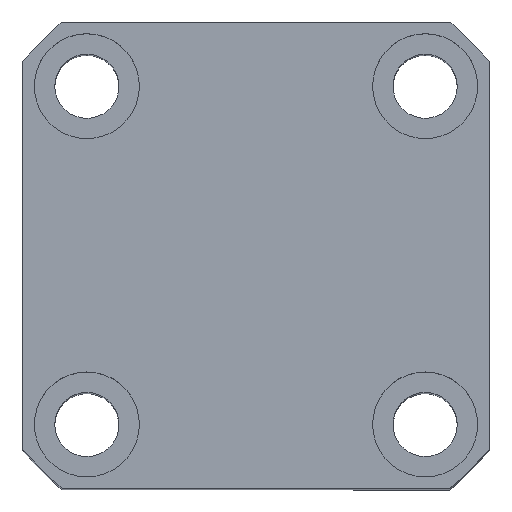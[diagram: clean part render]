
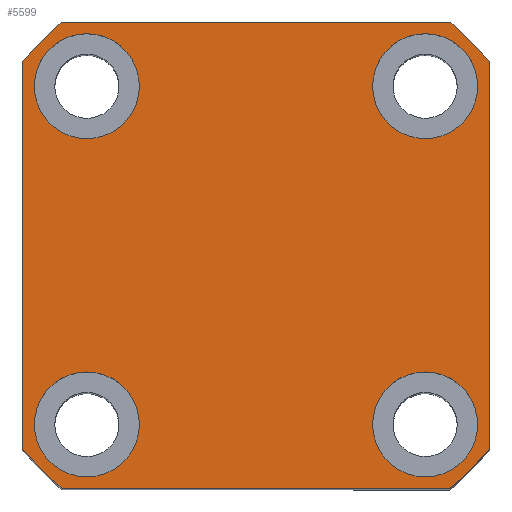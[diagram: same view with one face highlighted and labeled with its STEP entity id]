
A CAD part, top view. The second image highlights one B-rep face of the part: STEP entity #5599.
In plain terms, the highlighted planar face has unit normal (0, 0, 1).
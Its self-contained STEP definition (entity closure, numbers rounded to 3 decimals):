
#57 = DIRECTION ( 'NONE',  ( 0., 0., 1. ) ) ;
#140 = VERTEX_POINT ( 'NONE', #6540 ) ;
#310 = CARTESIAN_POINT ( 'NONE',  ( -33.226, 40., 70. ) ) ;
#358 = CARTESIAN_POINT ( 'NONE',  ( 0., 0., 70. ) ) ;
#406 = EDGE_CURVE ( 'NONE', #1213, #6819, #6655, .T. ) ;
#444 = ORIENTED_EDGE ( 'NONE', *, *, #11125, .T. ) ;
#515 = EDGE_CURVE ( 'NONE', #6120, #532, #2562, .T. ) ;
#532 = VERTEX_POINT ( 'NONE', #8366 ) ;
#1038 = ORIENTED_EDGE ( 'NONE', *, *, #9103, .T. ) ;
#1051 = CARTESIAN_POINT ( 'NONE',  ( 38., -29., 70. ) ) ;
#1101 = CIRCLE ( 'NONE', #6716, 52. ) ;
#1142 = VERTEX_POINT ( 'NONE', #3096 ) ;
#1148 = CARTESIAN_POINT ( 'NONE',  ( -29., 29., 70. ) ) ;
#1213 = VERTEX_POINT ( 'NONE', #13213 ) ;
#1246 = DIRECTION ( 'NONE',  ( 0., 0., 1. ) ) ;
#1385 = AXIS2_PLACEMENT_3D ( 'NONE', #9078, #1538, #2501 ) ;
#1415 = VERTEX_POINT ( 'NONE', #9473 ) ;
#1446 = EDGE_CURVE ( 'NONE', #7892, #1142, #2049, .T. ) ;
#1471 = DIRECTION ( 'NONE',  ( 1., 0., 0. ) ) ;
#1496 = DIRECTION ( 'NONE',  ( 1., 0., 0. ) ) ;
#1519 = VERTEX_POINT ( 'NONE', #3333 ) ;
#1538 = DIRECTION ( 'NONE',  ( 0., 0., 1. ) ) ;
#1629 = CIRCLE ( 'NONE', #12748, 52. ) ;
#1635 = DIRECTION ( 'NONE',  ( 0., 0., 1. ) ) ;
#1673 = CARTESIAN_POINT ( 'NONE',  ( 0., 0., 70. ) ) ;
#1755 = ORIENTED_EDGE ( 'NONE', *, *, #515, .T. ) ;
#1817 = EDGE_LOOP ( 'NONE', ( #1038, #1755, #14129, #10009, #8756, #5972, #444, #9604 ) ) ;
#1912 = CARTESIAN_POINT ( 'NONE',  ( -38., 29., 70. ) ) ;
#2049 = CIRCLE ( 'NONE', #5244, 9. ) ;
#2159 = CIRCLE ( 'NONE', #6251, 9. ) ;
#2186 = DIRECTION ( 'NONE',  ( 0., 0., 1. ) ) ;
#2227 = CARTESIAN_POINT ( 'NONE',  ( -40., 33.226, 70. ) ) ;
#2484 = PLANE ( 'NONE',  #12617 ) ;
#2501 = DIRECTION ( 'NONE',  ( 1., 0., 0. ) ) ;
#2562 = LINE ( 'NONE', #10366, #12643 ) ;
#2639 = DIRECTION ( 'NONE',  ( 1., 0., 0. ) ) ;
#2737 = CARTESIAN_POINT ( 'NONE',  ( 0., 0., 70. ) ) ;
#2788 = DIRECTION ( 'NONE',  ( 1., 0., 0. ) ) ;
#2901 = DIRECTION ( 'NONE',  ( 1., 0., 0. ) ) ;
#3096 = CARTESIAN_POINT ( 'NONE',  ( -38., -29., 70. ) ) ;
#3150 = CARTESIAN_POINT ( 'NONE',  ( 40., 33.226, 70. ) ) ;
#3156 = DIRECTION ( 'NONE',  ( 1., 0., 0. ) ) ;
#3333 = CARTESIAN_POINT ( 'NONE',  ( 20., -29., 70. ) ) ;
#3425 = VECTOR ( 'NONE', #9371, 1000. ) ;
#3637 = VERTEX_POINT ( 'NONE', #9838 ) ;
#3853 = CARTESIAN_POINT ( 'NONE',  ( 0., 0., 70. ) ) ;
#3869 = FACE_OUTER_BOUND ( 'NONE', #1817, .T. ) ;
#3901 = ORIENTED_EDGE ( 'NONE', *, *, #10978, .F. ) ;
#3949 = EDGE_LOOP ( 'NONE', ( #11313, #3901 ) ) ;
#4041 = CIRCLE ( 'NONE', #5995, 9. ) ;
#4525 = DIRECTION ( 'NONE',  ( 1., 0., 0. ) ) ;
#4615 = VECTOR ( 'NONE', #4525, 1000. ) ;
#4690 = CARTESIAN_POINT ( 'NONE',  ( -20., -29., 70. ) ) ;
#4731 = EDGE_CURVE ( 'NONE', #13200, #14202, #14121, .T. ) ;
#4825 = EDGE_CURVE ( 'NONE', #11174, #1213, #12225, .T. ) ;
#4884 = DIRECTION ( 'NONE',  ( 0., 0., 1. ) ) ;
#5244 = AXIS2_PLACEMENT_3D ( 'NONE', #7722, #12001, #11053 ) ;
#5332 = EDGE_LOOP ( 'NONE', ( #13879, #6206 ) ) ;
#5599 = ADVANCED_FACE ( 'NONE', ( #12568, #10014, #7109, #6764, #3869 ), #2484, .T. ) ;
#5814 = ORIENTED_EDGE ( 'NONE', *, *, #10399, .F. ) ;
#5874 = CARTESIAN_POINT ( 'NONE',  ( 40., 33.226, 70. ) ) ;
#5910 = DIRECTION ( 'NONE',  ( 0., 0., 1. ) ) ;
#5972 = ORIENTED_EDGE ( 'NONE', *, *, #406, .T. ) ;
#5995 = AXIS2_PLACEMENT_3D ( 'NONE', #10746, #2186, #9825 ) ;
#6120 = VERTEX_POINT ( 'NONE', #2227 ) ;
#6169 = ORIENTED_EDGE ( 'NONE', *, *, #4731, .F. ) ;
#6206 = ORIENTED_EDGE ( 'NONE', *, *, #13514, .F. ) ;
#6251 = AXIS2_PLACEMENT_3D ( 'NONE', #13540, #10417, #2639 ) ;
#6356 = CARTESIAN_POINT ( 'NONE',  ( 0., 0., 70. ) ) ;
#6539 = DIRECTION ( 'NONE',  ( 1., 0., 0. ) ) ;
#6540 = CARTESIAN_POINT ( 'NONE',  ( 38., 29., 70. ) ) ;
#6570 = CARTESIAN_POINT ( 'NONE',  ( -33.226, -40., 70. ) ) ;
#6621 = VERTEX_POINT ( 'NONE', #9540 ) ;
#6645 = EDGE_LOOP ( 'NONE', ( #5814, #9885 ) ) ;
#6655 = LINE ( 'NONE', #5874, #3425 ) ;
#6716 = AXIS2_PLACEMENT_3D ( 'NONE', #6356, #8680, #3156 ) ;
#6764 = FACE_BOUND ( 'NONE', #6645, .T. ) ;
#6819 = VERTEX_POINT ( 'NONE', #3150 ) ;
#6892 = LINE ( 'NONE', #310, #12548 ) ;
#6950 = EDGE_CURVE ( 'NONE', #3637, #11174, #13608, .T. ) ;
#7109 = FACE_BOUND ( 'NONE', #8483, .T. ) ;
#7298 = EDGE_CURVE ( 'NONE', #14202, #13200, #11783, .T. ) ;
#7722 = CARTESIAN_POINT ( 'NONE',  ( -29., -29., 70. ) ) ;
#7892 = VERTEX_POINT ( 'NONE', #4690 ) ;
#7946 = VERTEX_POINT ( 'NONE', #12416 ) ;
#8318 = DIRECTION ( 'NONE',  ( 0., 0., 1. ) ) ;
#8366 = CARTESIAN_POINT ( 'NONE',  ( -40., -33.226, 70. ) ) ;
#8483 = EDGE_LOOP ( 'NONE', ( #6169, #12990 ) ) ;
#8625 = AXIS2_PLACEMENT_3D ( 'NONE', #11974, #57, #6539 ) ;
#8680 = DIRECTION ( 'NONE',  ( 0., 0., 1. ) ) ;
#8756 = ORIENTED_EDGE ( 'NONE', *, *, #4825, .T. ) ;
#9078 = CARTESIAN_POINT ( 'NONE',  ( 29., -29., 70. ) ) ;
#9103 = EDGE_CURVE ( 'NONE', #1415, #6120, #9541, .T. ) ;
#9258 = AXIS2_PLACEMENT_3D ( 'NONE', #13824, #8318, #10624 ) ;
#9271 = DIRECTION ( 'NONE',  ( 0., 0., 1. ) ) ;
#9371 = DIRECTION ( 'NONE',  ( 0., 1., 0. ) ) ;
#9372 = DIRECTION ( 'NONE',  ( 1., 0., 0. ) ) ;
#9451 = CARTESIAN_POINT ( 'NONE',  ( -20., 29., 70. ) ) ;
#9473 = CARTESIAN_POINT ( 'NONE',  ( -33.226, 40., 70. ) ) ;
#9540 = CARTESIAN_POINT ( 'NONE',  ( 20., 29., 70. ) ) ;
#9541 = CIRCLE ( 'NONE', #10248, 52. ) ;
#9568 = DIRECTION ( 'NONE',  ( 0., -1., 0. ) ) ;
#9604 = ORIENTED_EDGE ( 'NONE', *, *, #13891, .T. ) ;
#9825 = DIRECTION ( 'NONE',  ( 1., 0., 0. ) ) ;
#9838 = CARTESIAN_POINT ( 'NONE',  ( -33.226, -40., 70. ) ) ;
#9885 = ORIENTED_EDGE ( 'NONE', *, *, #10313, .F. ) ;
#10009 = ORIENTED_EDGE ( 'NONE', *, *, #6950, .T. ) ;
#10014 = FACE_BOUND ( 'NONE', #5332, .T. ) ;
#10248 = AXIS2_PLACEMENT_3D ( 'NONE', #1673, #9271, #10506 ) ;
#10313 = EDGE_CURVE ( 'NONE', #6621, #140, #2159, .T. ) ;
#10352 = CIRCLE ( 'NONE', #8625, 9. ) ;
#10366 = CARTESIAN_POINT ( 'NONE',  ( -40., 33.226, 70. ) ) ;
#10369 = DIRECTION ( 'NONE',  ( 0., 0., 1. ) ) ;
#10399 = EDGE_CURVE ( 'NONE', #140, #6621, #13940, .T. ) ;
#10417 = DIRECTION ( 'NONE',  ( 0., 0., 1. ) ) ;
#10421 = AXIS2_PLACEMENT_3D ( 'NONE', #3853, #1635, #9372 ) ;
#10506 = DIRECTION ( 'NONE',  ( 1., 0., 0. ) ) ;
#10624 = DIRECTION ( 'NONE',  ( 1., 0., 0. ) ) ;
#10717 = CARTESIAN_POINT ( 'NONE',  ( 33.226, -40., 70. ) ) ;
#10746 = CARTESIAN_POINT ( 'NONE',  ( -29., -29., 70. ) ) ;
#10978 = EDGE_CURVE ( 'NONE', #1519, #11382, #11384, .T. ) ;
#11053 = DIRECTION ( 'NONE',  ( 1., 0., 0. ) ) ;
#11125 = EDGE_CURVE ( 'NONE', #6819, #7946, #1629, .T. ) ;
#11174 = VERTEX_POINT ( 'NONE', #10717 ) ;
#11313 = ORIENTED_EDGE ( 'NONE', *, *, #11861, .F. ) ;
#11382 = VERTEX_POINT ( 'NONE', #1051 ) ;
#11384 = CIRCLE ( 'NONE', #1385, 9. ) ;
#11783 = CIRCLE ( 'NONE', #12534, 9. ) ;
#11861 = EDGE_CURVE ( 'NONE', #11382, #1519, #10352, .T. ) ;
#11974 = CARTESIAN_POINT ( 'NONE',  ( 29., -29., 70. ) ) ;
#12001 = DIRECTION ( 'NONE',  ( 0., 0., 1. ) ) ;
#12225 = CIRCLE ( 'NONE', #10421, 52. ) ;
#12416 = CARTESIAN_POINT ( 'NONE',  ( 33.226, 40., 70. ) ) ;
#12534 = AXIS2_PLACEMENT_3D ( 'NONE', #13739, #10369, #2901 ) ;
#12548 = VECTOR ( 'NONE', #13518, 1000. ) ;
#12568 = FACE_BOUND ( 'NONE', #3949, .T. ) ;
#12617 = AXIS2_PLACEMENT_3D ( 'NONE', #358, #5910, #1471 ) ;
#12643 = VECTOR ( 'NONE', #9568, 1000. ) ;
#12748 = AXIS2_PLACEMENT_3D ( 'NONE', #2737, #4884, #2788 ) ;
#12990 = ORIENTED_EDGE ( 'NONE', *, *, #7298, .F. ) ;
#13200 = VERTEX_POINT ( 'NONE', #9451 ) ;
#13213 = CARTESIAN_POINT ( 'NONE',  ( 40., -33.226, 70. ) ) ;
#13514 = EDGE_CURVE ( 'NONE', #1142, #7892, #4041, .T. ) ;
#13518 = DIRECTION ( 'NONE',  ( -1., 0., 0. ) ) ;
#13533 = EDGE_CURVE ( 'NONE', #532, #3637, #1101, .T. ) ;
#13540 = CARTESIAN_POINT ( 'NONE',  ( 29., 29., 70. ) ) ;
#13608 = LINE ( 'NONE', #6570, #4615 ) ;
#13739 = CARTESIAN_POINT ( 'NONE',  ( -29., 29., 70. ) ) ;
#13824 = CARTESIAN_POINT ( 'NONE',  ( 29., 29., 70. ) ) ;
#13879 = ORIENTED_EDGE ( 'NONE', *, *, #1446, .F. ) ;
#13891 = EDGE_CURVE ( 'NONE', #7946, #1415, #6892, .T. ) ;
#13940 = CIRCLE ( 'NONE', #9258, 9. ) ;
#14062 = AXIS2_PLACEMENT_3D ( 'NONE', #1148, #1246, #1496 ) ;
#14121 = CIRCLE ( 'NONE', #14062, 9. ) ;
#14129 = ORIENTED_EDGE ( 'NONE', *, *, #13533, .T. ) ;
#14202 = VERTEX_POINT ( 'NONE', #1912 ) ;
